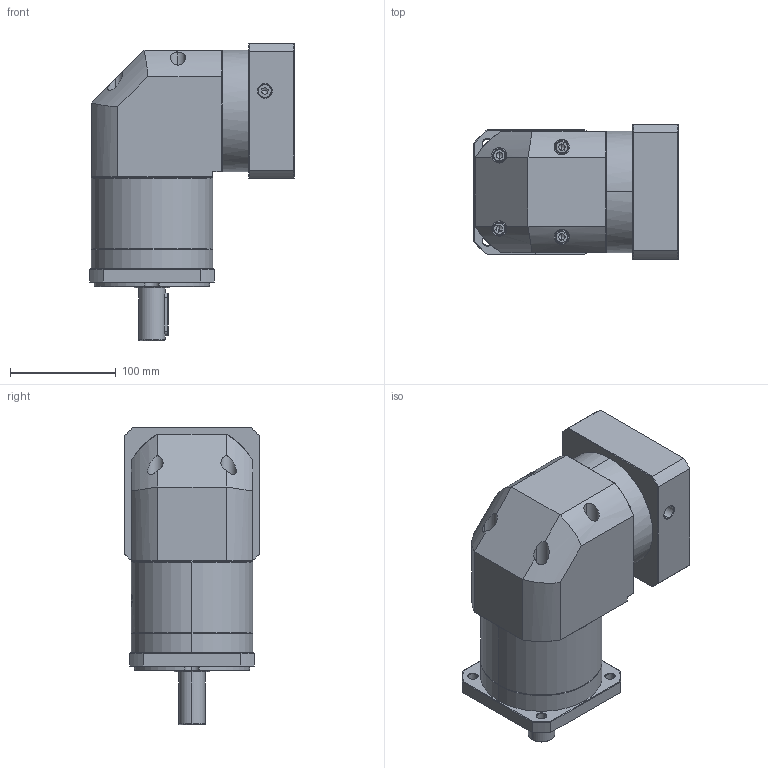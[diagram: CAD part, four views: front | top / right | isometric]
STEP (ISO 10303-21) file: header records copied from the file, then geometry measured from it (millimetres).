
FILE_DESCRIPTION (( 'STEP AP214' ), '1' );
FILE_NAME ('ZFR120A-D25-L2-P2-24-110-145-M8.step', '2023-08-27T08:03:50', ( '' ), ( '' ), 'SwSTEP 2.0', 'SolidWorks 2016', '' );
FILE_SCHEMA (( 'AUTOMOTIVE_DESIGN' ));
Length unit declared in the file: millimetre
Products named in the file (1): ZFR120A-D25-L2-P2-24-110-145-M8
Bounding box: 193.9 x 128 x 281.5 mm (x, y, z)
Volume: 3271150.1 mm3; surface area: 261774.4 mm2
Topology: 6 solids, 6 shells, 2265 faces, 5983 edges, 3823 vertices
Faces by surface type: plane 1061, cylinder 434, bspline 424, cone 338, torus 8
Entity records: 124141 total; most frequent: CARTESIAN_POINT 48691, ORIENTED_EDGE 11906, DIRECTION 8636, EDGE_CURVE 5953, VERTEX_POINT 3823, LINE 3160, VECTOR 3160, AXIS2_PLACEMENT_3D 2738
